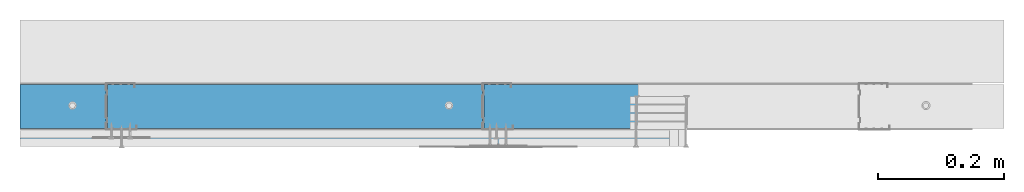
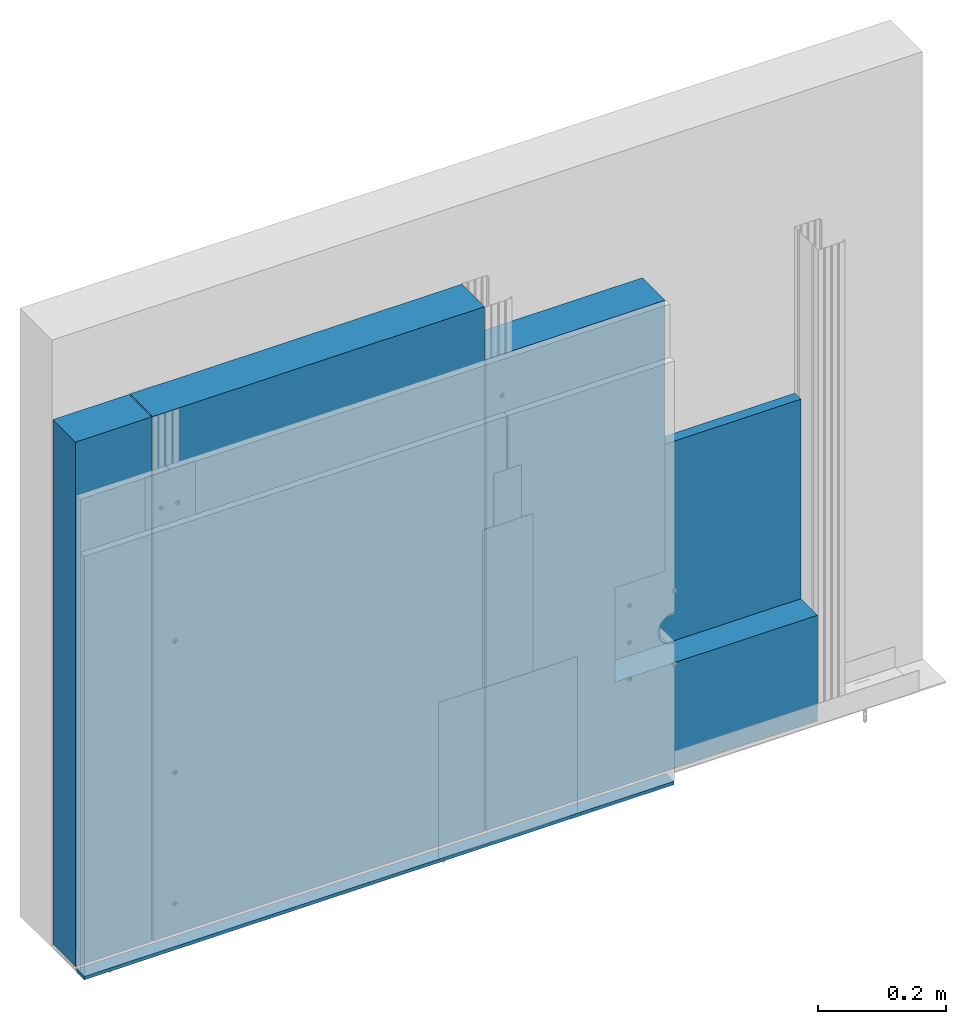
# One storey, part 2 of 32: 4 walls.
"""IFC2X3 building model written with IfcOpenShell, lengths in millimetres."""

from ifc_helpers import new_model, entity, si_unit, converted_unit, direction, frame, origin, origin_with_axes, place, context, project, spatial, faceted_brep, element, save


model = new_model("IFC2X3")

# Units and contexts
model_context = context("Model", 3, precision=1e-05, world=origin(), true_north=direction((0.0, 1.0, 0.0)))
ifc_project = project(units=[si_unit("LENGTHUNIT", "METRE", prefix="MILLI"), si_unit("AREAUNIT", "SQUARE_METRE"), si_unit("VOLUMEUNIT", "CUBIC_METRE"), converted_unit("PLANEANGLEUNIT", "DEGREE", entity("IfcPlaneAngleMeasure", 0.01745), si_unit("PLANEANGLEUNIT", "RADIAN"), dimensions=[0, 0, 0, 0, 0, 0, 0]), si_unit("SOLIDANGLEUNIT", "STERADIAN"), si_unit("MASSUNIT", "GRAM"), si_unit("TIMEUNIT", "SECOND"), si_unit("THERMODYNAMICTEMPERATUREUNIT", "DEGREE_CELSIUS"), si_unit("LUMINOUSINTENSITYUNIT", "LUMEN")], contexts=[model_context])

# Site, building, storey
site_placement = place(None, origin_with_axes())
site = spatial("IfcSite", under=ifc_project, at=site_placement, Name="Default Site", CompositionType="ELEMENT")
building_placement = place(site_placement, origin_with_axes())
building = spatial("IfcBuilding", under=site, at=building_placement, Name="Default Building", CompositionType="ELEMENT")
storey_placement = place(building_placement, origin_with_axes())
storey = spatial("IfcBuildingStorey", under=building, at=storey_placement, Name="Default Building Storey", CompositionType="ELEMENT", Elevation=0.0)

# Walls
wall_1_placement = place(storey_placement, frame((2150.202807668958, 5349.32136006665, 8.382447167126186), z_axis=(0.0, 0.0, 1.0), x_axis=(-1.0, 4.718447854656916e-16, 0.0)))
element("IfcWall", 1, at=wall_1_placement, inside=storey, Name="Wełna mineralna szklana lub skalna ISOVER", context=model_context, shape_type="Brep", body=[
    faceted_brep([(-711.7212262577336, 3399.989379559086, 1001.617552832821), (-114.0712262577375, 3399.989379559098, 1001.617552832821), (-114.0712262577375, 3399.989379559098, 2.350000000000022), (-711.7212262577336, 3399.989379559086, 2.350000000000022), (-711.7212262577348, 3329.283223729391, 1001.617552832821), (-711.7212262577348, 3329.283223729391, 2.350000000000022), (-114.0712262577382, 3329.283223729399, 2.350000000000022), (-114.0712262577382, 3329.283223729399, 1001.617552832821)], [[[0, 1, 2, 3]], [[4, 0, 3, 5]], [[2, 6, 5, 3]], [[4, 7, 1, 0]], [[5, 6, 7, 4]], [[1, 7, 6, 2]]]),
])
wall_2_placement = place(storey_placement, frame((2997.657991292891, 5348.32136006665, 8.382447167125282), z_axis=(0.0, 0.0, 1.0), x_axis=(-1.0, 4.718447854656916e-16, 0.0)))
element("IfcWall", 2, at=wall_2_placement, inside=storey, Name="Wełna mineralna szklana lub skalna ISOVER", context=model_context, shape_type="Brep", body=[
    faceted_brep([(-189.4660426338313, 3328.28322372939, 584.0146216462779), (-189.4660426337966, 3347.159172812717, 584.0146216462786), (-464.3205393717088, 3347.159172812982, 584.0146216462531), (-464.3205393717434, 3328.283223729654, 584.0146216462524), (-464.3205393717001, 3328.283223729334, 204.0146216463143), (-464.32053937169, 3347.159172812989, 204.0146216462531), (-464.3205393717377, 3328.283223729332, 2.350000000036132), (-464.3205393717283, 3398.989379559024, 204.0146216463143), (-464.3205393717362, 3398.989379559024, 2.350000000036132), (-99.46604263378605, 3347.159172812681, 384.0146216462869), (-99.46604263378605, 3347.159172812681, 204.0146216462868), (-189.4660426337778, 3347.159172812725, 384.0146216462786), (-189.4660426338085, 3398.989379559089, 384.0146216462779), (-99.46604263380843, 3398.989379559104, 384.0146216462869), (-99.46604263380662, 3398.989379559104, 204.0146216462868), (-189.4660426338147, 3398.989379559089, 900.0079488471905), (133.3839573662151, 3398.9893795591, 900.0079488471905), (133.3839573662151, 3398.9893795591, 2.350000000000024), (-189.4660426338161, 3328.283223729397, 900.0079488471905), (133.3839573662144, 3328.283223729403, 2.350000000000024), (133.3839573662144, 3328.283223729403, 900.0079488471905)], [[[0, 1, 2, 3]], [[4, 3, 2, 5]], [[6, 4, 5, 7, 8]], [[9, 10, 5, 2, 1, 11]], [[9, 11, 12, 13]], [[14, 7, 5, 10]], [[14, 10, 9, 13]], [[15, 16, 17, 8, 7, 14, 13, 12]], [[15, 12, 11, 1, 0, 18]], [[17, 19, 6, 8]], [[18, 20, 16, 15]], [[6, 19, 20, 18, 0, 3, 4]], [[16, 20, 19, 17]]]),
])
wall_3_placement = place(storey_placement, frame((1574.102807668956, 5349.321360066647, 8.382447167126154), z_axis=(0.0, 0.0, 1.0), x_axis=(-1.0, 4.718447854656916e-16, 0.0)))
element("IfcWall", 3, at=wall_3_placement, inside=storey, Name="Wełna mineralna szklana lub skalna ISOVER", context=model_context, shape_type="Brep", body=[
    faceted_brep([(-687.8212262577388, 3329.283223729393, 1001.61755283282), (-687.821226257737, 3399.989379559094, 1001.61755283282), (-687.821226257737, 3399.989379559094, 2.350000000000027), (-687.8212262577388, 3329.283223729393, 2.350000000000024), (-550.92232580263, 3399.989379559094, 2.350000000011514), (-550.9223258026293, 3329.283223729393, 2.350000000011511), (-550.9223258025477, 3329.283223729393, 1001.61755283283), (-550.9223258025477, 3399.989379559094, 1001.61755283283)], [[[0, 1, 2, 3]], [[2, 4, 5, 3]], [[0, 6, 7, 1]], [[1, 7, 4, 2]], [[3, 5, 6, 0]], [[7, 6, 5, 4]]]),
])
wall_4_placement = place(storey_placement, frame((3875.151587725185, 1921.791292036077, 2.397068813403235), z_axis=(0.0, 0.0, 1.0), x_axis=(1.0, 0.0, 0.0)))
element("IfcWall", 4, at=wall_4_placement, inside=storey, Name="Dedykowana masa szpachlowa Rigips - konstrukcyjna", context=model_context, shape_type="Brep", body=[
    faceted_brep([(-688.0275537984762, 24.6461696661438, 0.0), (-688.0275537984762, 0.0, 0.0), (-1750.126454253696, 0.0, 0.0), (-1750.126454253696, 24.6461696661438, 0.0), (-688.0275537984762, 0.0, 6.614392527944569), (-1750.126454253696, 0.0, 6.614392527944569), (-688.0275537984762, 24.6461696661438, 6.614392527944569), (-1750.126454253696, 24.6461696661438, 6.614392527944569)], [[[0, 1, 2, 3]], [[1, 4, 5, 2]], [[4, 6, 7, 5]], [[6, 0, 3, 7]], [[7, 3, 2, 5]], [[0, 6, 4, 1]]]),
])

save(model, "model.ifc")
